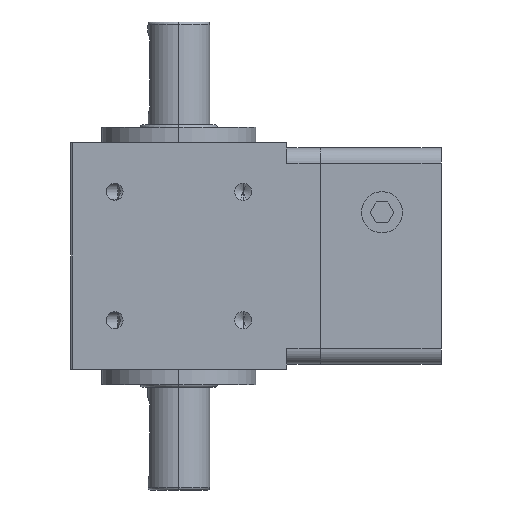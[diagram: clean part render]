
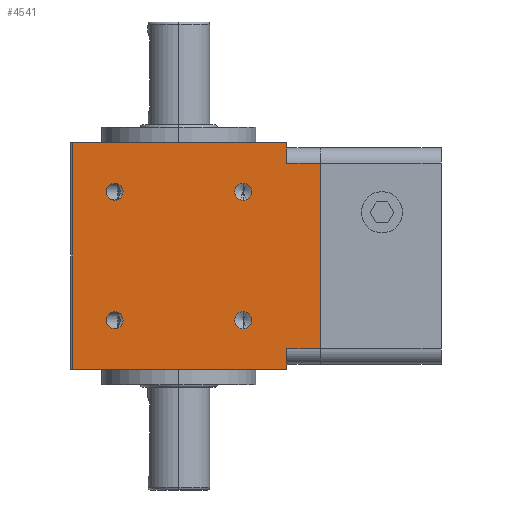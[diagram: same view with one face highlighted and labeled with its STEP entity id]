
A CAD part, left-side view. The second image highlights one B-rep face of the part: STEP entity #4541.
In plain terms, the highlighted planar face has unit normal (-1, 0, 0).
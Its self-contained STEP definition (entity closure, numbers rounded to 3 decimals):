
#126 = VERTEX_POINT ( 'NONE', #8371 ) ;
#156 = VERTEX_POINT ( 'NONE', #5894 ) ;
#221 = AXIS2_PLACEMENT_3D ( 'NONE', #6532, #3307, #3959 ) ;
#366 = FACE_BOUND ( 'NONE', #2871, .T. ) ;
#411 = ORIENTED_EDGE ( 'NONE', *, *, #3651, .T. ) ;
#449 = DIRECTION ( 'NONE',  ( 0., 0., 1. ) ) ;
#499 = DIRECTION ( 'NONE',  ( 0., 0., 1. ) ) ;
#553 = VECTOR ( 'NONE', #449, 1000. ) ;
#637 = LINE ( 'NONE', #810, #6486 ) ;
#704 = DIRECTION ( 'NONE',  ( 0., 0., 1. ) ) ;
#731 = CARTESIAN_POINT ( 'NONE',  ( -21., 12.5, 14.15 ) ) ;
#810 = CARTESIAN_POINT ( 'NONE',  ( -21., -21., -18. ) ) ;
#857 = DIRECTION ( 'NONE',  ( 0., -1., 0. ) ) ;
#872 = ORIENTED_EDGE ( 'NONE', *, *, #2387, .T. ) ;
#883 = CARTESIAN_POINT ( 'NONE',  ( -21., 20.7, -22. ) ) ;
#1001 = CARTESIAN_POINT ( 'NONE',  ( -21., -27.5, -18. ) ) ;
#1184 = CARTESIAN_POINT ( 'NONE',  ( -21., -27.5, 21. ) ) ;
#1505 = AXIS2_PLACEMENT_3D ( 'NONE', #3036, #5006, #499 ) ;
#1506 = VERTEX_POINT ( 'NONE', #6017 ) ;
#1578 = FACE_BOUND ( 'NONE', #4941, .T. ) ;
#1616 = CARTESIAN_POINT ( 'NONE',  ( -21., 21., -22. ) ) ;
#1738 = EDGE_CURVE ( 'NONE', #2056, #3674, #3883, .T. ) ;
#1808 = EDGE_CURVE ( 'NONE', #4362, #5367, #3579, .T. ) ;
#1850 = VECTOR ( 'NONE', #7061, 1000. ) ;
#1853 = EDGE_CURVE ( 'NONE', #7264, #126, #3269, .T. ) ;
#1946 = VERTEX_POINT ( 'NONE', #4657 ) ;
#2038 = CIRCLE ( 'NONE', #6606, 1.65 ) ;
#2056 = VERTEX_POINT ( 'NONE', #8211 ) ;
#2135 = LINE ( 'NONE', #2175, #8301 ) ;
#2170 = VECTOR ( 'NONE', #4630, 1000. ) ;
#2175 = CARTESIAN_POINT ( 'NONE',  ( -21., 21., 22. ) ) ;
#2311 = VECTOR ( 'NONE', #5927, 1000. ) ;
#2387 = EDGE_CURVE ( 'NONE', #1946, #2865, #637, .T. ) ;
#2704 = CARTESIAN_POINT ( 'NONE',  ( -21., -21., -22. ) ) ;
#2743 = ORIENTED_EDGE ( 'NONE', *, *, #1738, .F. ) ;
#2770 = LINE ( 'NONE', #2704, #2170 ) ;
#2844 = DIRECTION ( 'NONE',  ( 0., -1., 0. ) ) ;
#2865 = VERTEX_POINT ( 'NONE', #1001 ) ;
#2871 = EDGE_LOOP ( 'NONE', ( #8000, #5532 ) ) ;
#2892 = ORIENTED_EDGE ( 'NONE', *, *, #6190, .T. ) ;
#2941 = ORIENTED_EDGE ( 'NONE', *, *, #5910, .F. ) ;
#2969 = CARTESIAN_POINT ( 'NONE',  ( -21., 12.5, 12.5 ) ) ;
#2991 = EDGE_CURVE ( 'NONE', #5367, #4362, #2038, .T. ) ;
#3027 = DIRECTION ( 'NONE',  ( 0., -1., 0. ) ) ;
#3036 = CARTESIAN_POINT ( 'NONE',  ( -21., 12.5, 12.5 ) ) ;
#3063 = CIRCLE ( 'NONE', #7616, 1.65 ) ;
#3118 = ORIENTED_EDGE ( 'NONE', *, *, #4029, .F. ) ;
#3247 = EDGE_CURVE ( 'NONE', #7199, #6656, #5859, .T. ) ;
#3269 = LINE ( 'NONE', #4554, #1850 ) ;
#3307 = DIRECTION ( 'NONE',  ( -1., 0., 0. ) ) ;
#3489 = CARTESIAN_POINT ( 'NONE',  ( -21., -21., -22. ) ) ;
#3579 = CIRCLE ( 'NONE', #4412, 1.65 ) ;
#3622 = ORIENTED_EDGE ( 'NONE', *, *, #7599, .F. ) ;
#3651 = EDGE_CURVE ( 'NONE', #6306, #3855, #5567, .T. ) ;
#3674 = VERTEX_POINT ( 'NONE', #5329 ) ;
#3735 = CARTESIAN_POINT ( 'NONE',  ( -21., -12.5, 12.5 ) ) ;
#3790 = LINE ( 'NONE', #5724, #553 ) ;
#3855 = VERTEX_POINT ( 'NONE', #883 ) ;
#3883 = CIRCLE ( 'NONE', #5146, 1.65 ) ;
#3959 = DIRECTION ( 'NONE',  ( 0., 0., 1. ) ) ;
#4029 = EDGE_CURVE ( 'NONE', #126, #2865, #7542, .T. ) ;
#4205 = ORIENTED_EDGE ( 'NONE', *, *, #5150, .F. ) ;
#4362 = VERTEX_POINT ( 'NONE', #7805 ) ;
#4389 = DIRECTION ( 'NONE',  ( 0., 0., 1. ) ) ;
#4412 = AXIS2_PLACEMENT_3D ( 'NONE', #7179, #4595, #704 ) ;
#4447 = CARTESIAN_POINT ( 'NONE',  ( -21., 12.5, -10.85 ) ) ;
#4535 = CARTESIAN_POINT ( 'NONE',  ( -21., -12.5, 12.5 ) ) ;
#4541 = ADVANCED_FACE ( 'NONE', ( #8338, #5226, #5811, #1578, #366 ), #8096, .T. ) ;
#4554 = CARTESIAN_POINT ( 'NONE',  ( -21., -21., 18. ) ) ;
#4591 = CARTESIAN_POINT ( 'NONE',  ( -21., 20.7, -22. ) ) ;
#4595 = DIRECTION ( 'NONE',  ( -1., 0., 0. ) ) ;
#4630 = DIRECTION ( 'NONE',  ( 0., 0., 1. ) ) ;
#4657 = CARTESIAN_POINT ( 'NONE',  ( -21., -21., -18. ) ) ;
#4784 = ORIENTED_EDGE ( 'NONE', *, *, #2991, .F. ) ;
#4872 = AXIS2_PLACEMENT_3D ( 'NONE', #5033, #4969, #6161 ) ;
#4939 = AXIS2_PLACEMENT_3D ( 'NONE', #2969, #6202, #6884 ) ;
#4940 = DIRECTION ( 'NONE',  ( -1., 0., 0. ) ) ;
#4941 = EDGE_LOOP ( 'NONE', ( #2743, #3622 ) ) ;
#4969 = DIRECTION ( 'NONE',  ( -1., 0., 0. ) ) ;
#5006 = DIRECTION ( 'NONE',  ( -1., 0., 0. ) ) ;
#5033 = CARTESIAN_POINT ( 'NONE',  ( -21., -12.5, -12.5 ) ) ;
#5146 = AXIS2_PLACEMENT_3D ( 'NONE', #3735, #6973, #7010 ) ;
#5150 = EDGE_CURVE ( 'NONE', #7028, #156, #5515, .T. ) ;
#5188 = EDGE_LOOP ( 'NONE', ( #4205, #2941 ) ) ;
#5226 = FACE_BOUND ( 'NONE', #5419, .T. ) ;
#5320 = CARTESIAN_POINT ( 'NONE',  ( -21., -12.5, -14.15 ) ) ;
#5329 = CARTESIAN_POINT ( 'NONE',  ( -21., -12.5, 10.85 ) ) ;
#5367 = VERTEX_POINT ( 'NONE', #4447 ) ;
#5371 = AXIS2_PLACEMENT_3D ( 'NONE', #5529, #4940, #3027 ) ;
#5419 = EDGE_LOOP ( 'NONE', ( #4784, #6652 ) ) ;
#5427 = DIRECTION ( 'NONE',  ( 0., -1., 0. ) ) ;
#5443 = CARTESIAN_POINT ( 'NONE',  ( -21., -12.5, -10.85 ) ) ;
#5479 = CARTESIAN_POINT ( 'NONE',  ( -21., -21., 18. ) ) ;
#5493 = EDGE_CURVE ( 'NONE', #7264, #1506, #2770, .T. ) ;
#5494 = ORIENTED_EDGE ( 'NONE', *, *, #8347, .F. ) ;
#5515 = CIRCLE ( 'NONE', #4939, 1.65 ) ;
#5529 = CARTESIAN_POINT ( 'NONE',  ( -21., 21., -22. ) ) ;
#5532 = ORIENTED_EDGE ( 'NONE', *, *, #3247, .F. ) ;
#5567 = LINE ( 'NONE', #4591, #2311 ) ;
#5616 = CARTESIAN_POINT ( 'NONE',  ( -21., 20.7, 22. ) ) ;
#5702 = CARTESIAN_POINT ( 'NONE',  ( -21., 12.5, -12.5 ) ) ;
#5717 = ORIENTED_EDGE ( 'NONE', *, *, #1853, .F. ) ;
#5724 = CARTESIAN_POINT ( 'NONE',  ( -21., -21., -22. ) ) ;
#5811 = FACE_BOUND ( 'NONE', #5188, .T. ) ;
#5849 = EDGE_CURVE ( 'NONE', #8360, #1946, #3790, .T. ) ;
#5859 = CIRCLE ( 'NONE', #221, 1.65 ) ;
#5894 = CARTESIAN_POINT ( 'NONE',  ( -21., 12.5, 10.85 ) ) ;
#5910 = EDGE_CURVE ( 'NONE', #156, #7028, #8045, .T. ) ;
#5927 = DIRECTION ( 'NONE',  ( 0., 0., -1. ) ) ;
#6017 = CARTESIAN_POINT ( 'NONE',  ( -21., -21., 22. ) ) ;
#6161 = DIRECTION ( 'NONE',  ( 0., 0., 1. ) ) ;
#6190 = EDGE_CURVE ( 'NONE', #3855, #8360, #6507, .T. ) ;
#6202 = DIRECTION ( 'NONE',  ( -1., 0., 0. ) ) ;
#6270 = DIRECTION ( 'NONE',  ( 0., 0., -1. ) ) ;
#6306 = VERTEX_POINT ( 'NONE', #5616 ) ;
#6486 = VECTOR ( 'NONE', #2844, 1000. ) ;
#6507 = LINE ( 'NONE', #1616, #8035 ) ;
#6532 = CARTESIAN_POINT ( 'NONE',  ( -21., -12.5, -12.5 ) ) ;
#6606 = AXIS2_PLACEMENT_3D ( 'NONE', #5702, #6918, #4389 ) ;
#6652 = ORIENTED_EDGE ( 'NONE', *, *, #1808, .F. ) ;
#6656 = VERTEX_POINT ( 'NONE', #5443 ) ;
#6884 = DIRECTION ( 'NONE',  ( 0., 0., 1. ) ) ;
#6918 = DIRECTION ( 'NONE',  ( -1., 0., 0. ) ) ;
#6973 = DIRECTION ( 'NONE',  ( -1., 0., 0. ) ) ;
#7010 = DIRECTION ( 'NONE',  ( 0., 0., 1. ) ) ;
#7015 = CIRCLE ( 'NONE', #4872, 1.65 ) ;
#7028 = VERTEX_POINT ( 'NONE', #731 ) ;
#7061 = DIRECTION ( 'NONE',  ( 0., -1., 0. ) ) ;
#7064 = DIRECTION ( 'NONE',  ( 0., 0., 1. ) ) ;
#7179 = CARTESIAN_POINT ( 'NONE',  ( -21., 12.5, -12.5 ) ) ;
#7199 = VERTEX_POINT ( 'NONE', #5320 ) ;
#7264 = VERTEX_POINT ( 'NONE', #5479 ) ;
#7379 = EDGE_CURVE ( 'NONE', #6656, #7199, #7015, .T. ) ;
#7542 = LINE ( 'NONE', #1184, #8250 ) ;
#7599 = EDGE_CURVE ( 'NONE', #3674, #2056, #3063, .T. ) ;
#7616 = AXIS2_PLACEMENT_3D ( 'NONE', #4535, #8304, #7064 ) ;
#7684 = EDGE_LOOP ( 'NONE', ( #5494, #411, #2892, #8381, #872, #3118, #5717, #8115 ) ) ;
#7805 = CARTESIAN_POINT ( 'NONE',  ( -21., 12.5, -14.15 ) ) ;
#8000 = ORIENTED_EDGE ( 'NONE', *, *, #7379, .F. ) ;
#8035 = VECTOR ( 'NONE', #5427, 1000. ) ;
#8045 = CIRCLE ( 'NONE', #1505, 1.65 ) ;
#8096 = PLANE ( 'NONE',  #5371 ) ;
#8115 = ORIENTED_EDGE ( 'NONE', *, *, #5493, .T. ) ;
#8211 = CARTESIAN_POINT ( 'NONE',  ( -21., -12.5, 14.15 ) ) ;
#8250 = VECTOR ( 'NONE', #6270, 1000. ) ;
#8301 = VECTOR ( 'NONE', #857, 1000. ) ;
#8304 = DIRECTION ( 'NONE',  ( -1., 0., 0. ) ) ;
#8338 = FACE_OUTER_BOUND ( 'NONE', #7684, .T. ) ;
#8347 = EDGE_CURVE ( 'NONE', #6306, #1506, #2135, .T. ) ;
#8360 = VERTEX_POINT ( 'NONE', #3489 ) ;
#8371 = CARTESIAN_POINT ( 'NONE',  ( -21., -27.5, 18. ) ) ;
#8381 = ORIENTED_EDGE ( 'NONE', *, *, #5849, .T. ) ;
